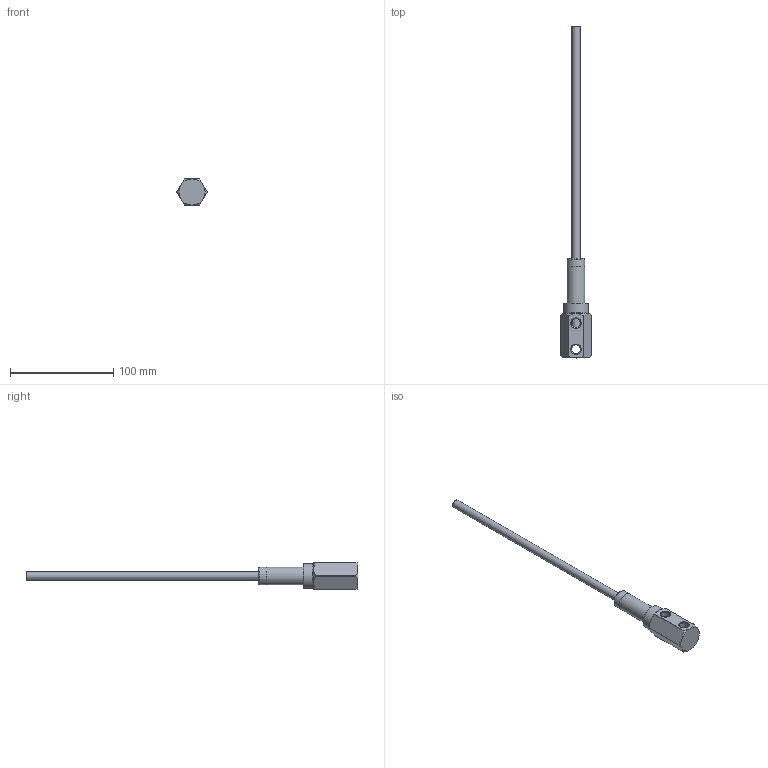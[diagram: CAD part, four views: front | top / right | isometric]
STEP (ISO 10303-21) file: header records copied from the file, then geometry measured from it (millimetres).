
FILE_DESCRIPTION(/* description */ (''),/* implementation_level */ '2;1');
FILE_NAME(/* name */ 'C:/Users/drich/Desktop/381N v1.step',/* time_stamp */ '2020-01-15T19:41:06-06:00',/* author */ (''),/* organization */ (''),/* preprocessor_version */ 'ST-DEVELOPER v18',/* originating_system */ 'Autodesk Translation Framework v8.12.0.6',/* authorisation */ '');
FILE_SCHEMA (('AUTOMOTIVE_DESIGN { 1 0 10303 214 3 1 1 }'));
Length unit declared in the file: inch
Products named in the file (4): 381N; 381H; SSPN38-2; 312T-12
Assembly tree (3 placements, depth 2):
  381N
    381H
    SSPN38-2
    312T-12
Bounding box: 29.26 x 321.39 x 25.4 mm (x, y, z)
Volume: 34122.6 mm3; surface area: 25123.7 mm2
Topology: 3 solids, 3 shells, 47 faces, 127 edges, 87 vertices
Faces by surface type: cylinder 18, plane 14, cone 13, torus 2
Full cylindrical faces by diameter (mm): 5.334 x1, 6.909 x1, 7.818 x1, 8.707 x3, 12.522 x1, 15.173 x1, 17.094 x2, 17.145 x1, 23.8 x1
Entity records: 1735 total; most frequent: CARTESIAN_POINT 391, DIRECTION 281, ORIENTED_EDGE 254, EDGE_CURVE 127, AXIS2_PLACEMENT_3D 123, VERTEX_POINT 87, CIRCLE 69, EDGE_LOOP 58
